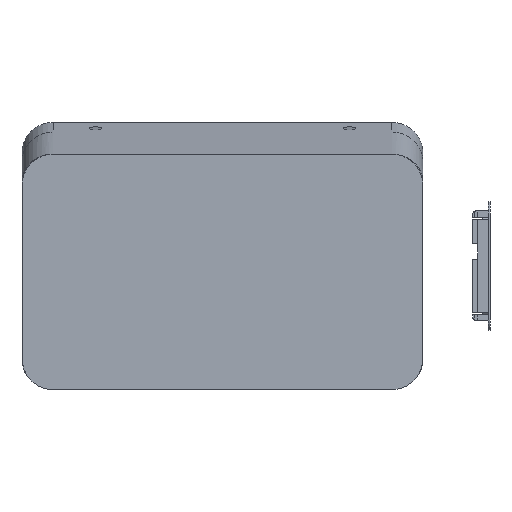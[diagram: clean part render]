
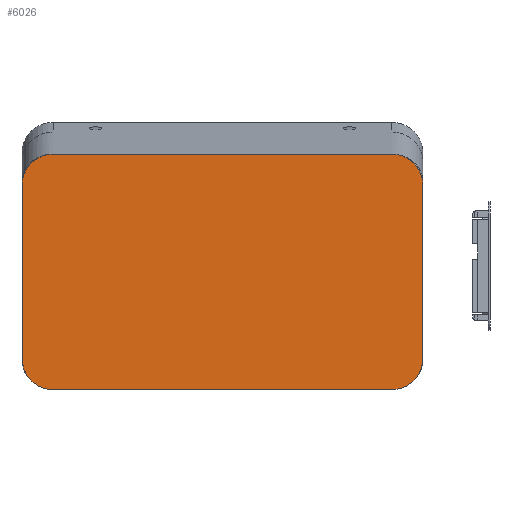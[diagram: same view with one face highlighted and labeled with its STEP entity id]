
A CAD part, front view. The second image highlights one B-rep face of the part: STEP entity #6026.
In plain terms, the highlighted planar face has unit normal (0, -1, 0).
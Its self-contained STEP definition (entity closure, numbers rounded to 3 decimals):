
#420=PLANE('',#6527);
#719=FACE_OUTER_BOUND('',#1113,.T.);
#1113=EDGE_LOOP('',(#5258,#5259,#5260,#5261,#5262,#5263,#5264,#5265));
#1483=LINE('',#9781,#2050);
#1592=LINE('',#11590,#2159);
#1606=LINE('',#11707,#2173);
#1607=LINE('',#11710,#2174);
#2050=VECTOR('',#7445,10.);
#2159=VECTOR('',#7748,10.);
#2173=VECTOR('',#7828,10.);
#2174=VECTOR('',#7831,10.);
#2545=CIRCLE('',#6494,10.);
#2552=CIRCLE('',#6528,10.);
#2553=CIRCLE('',#6529,10.);
#2554=CIRCLE('',#6530,10.);
#2864=VERTEX_POINT('',#9778);
#2865=VERTEX_POINT('',#9780);
#3008=VERTEX_POINT('',#11582);
#3009=VERTEX_POINT('',#11584);
#3010=VERTEX_POINT('',#11588);
#3016=VERTEX_POINT('',#11704);
#3017=VERTEX_POINT('',#11706);
#3018=VERTEX_POINT('',#11708);
#3555=EDGE_CURVE('',#2865,#2864,#1483,.T.);
#3767=EDGE_CURVE('',#3009,#3008,#2545,.T.);
#3770=EDGE_CURVE('',#3008,#3010,#1592,.T.);
#3798=EDGE_CURVE('',#2864,#3016,#2552,.T.);
#3799=EDGE_CURVE('',#3016,#3017,#1606,.T.);
#3800=EDGE_CURVE('',#3017,#3018,#2553,.T.);
#3801=EDGE_CURVE('',#3018,#3009,#1607,.T.);
#3802=EDGE_CURVE('',#3010,#2865,#2554,.T.);
#5258=ORIENTED_EDGE('',*,*,#3798,.T.);
#5259=ORIENTED_EDGE('',*,*,#3799,.T.);
#5260=ORIENTED_EDGE('',*,*,#3800,.T.);
#5261=ORIENTED_EDGE('',*,*,#3801,.T.);
#5262=ORIENTED_EDGE('',*,*,#3767,.T.);
#5263=ORIENTED_EDGE('',*,*,#3770,.T.);
#5264=ORIENTED_EDGE('',*,*,#3802,.T.);
#5265=ORIENTED_EDGE('',*,*,#3555,.T.);
#6026=ADVANCED_FACE('',(#719),#420,.T.);
#6494=AXIS2_PLACEMENT_3D('',#11585,#7742,#7743);
#6527=AXIS2_PLACEMENT_3D('',#11703,#7824,#7825);
#6528=AXIS2_PLACEMENT_3D('',#11705,#7826,#7827);
#6529=AXIS2_PLACEMENT_3D('',#11709,#7829,#7830);
#6530=AXIS2_PLACEMENT_3D('',#11711,#7832,#7833);
#7445=DIRECTION('',(0.,0.,1.));
#7742=DIRECTION('center_axis',(0.,-1.,0.));
#7743=DIRECTION('ref_axis',(-0.707,0.,-0.707));
#7748=DIRECTION('',(1.,0.,0.));
#7824=DIRECTION('center_axis',(0.,-1.,0.));
#7825=DIRECTION('ref_axis',(0.,0.,-1.));
#7826=DIRECTION('center_axis',(0.,-1.,0.));
#7827=DIRECTION('ref_axis',(0.707,0.,0.707));
#7828=DIRECTION('',(-1.,0.,0.));
#7829=DIRECTION('center_axis',(0.,-1.,0.));
#7830=DIRECTION('ref_axis',(-0.707,0.,0.707));
#7831=DIRECTION('',(0.,0.,-1.));
#7832=DIRECTION('center_axis',(0.,-1.,0.));
#7833=DIRECTION('ref_axis',(0.707,0.,-0.707));
#9778=CARTESIAN_POINT('',(87.198,-63.,55.468));
#9780=CARTESIAN_POINT('',(87.198,-63.,0.051));
#9781=CARTESIAN_POINT('',(87.198,-63.,-9.949));
#11582=CARTESIAN_POINT('',(-31.157,-63.,-9.949));
#11584=CARTESIAN_POINT('',(-41.157,-63.,0.051));
#11585=CARTESIAN_POINT('Origin',(-31.157,-63.,0.051));
#11588=CARTESIAN_POINT('',(77.198,-63.,-9.949));
#11590=CARTESIAN_POINT('',(-41.157,-63.,-9.949));
#11703=CARTESIAN_POINT('Origin',(23.021,-63.,27.759));
#11704=CARTESIAN_POINT('',(77.198,-63.,65.468));
#11705=CARTESIAN_POINT('Origin',(77.198,-63.,55.468));
#11706=CARTESIAN_POINT('',(-31.157,-63.,65.468));
#11707=CARTESIAN_POINT('',(87.198,-63.,65.468));
#11708=CARTESIAN_POINT('',(-41.157,-63.,55.468));
#11709=CARTESIAN_POINT('Origin',(-31.157,-63.,55.468));
#11710=CARTESIAN_POINT('',(-41.157,-63.,65.468));
#11711=CARTESIAN_POINT('Origin',(77.198,-63.,0.051));
